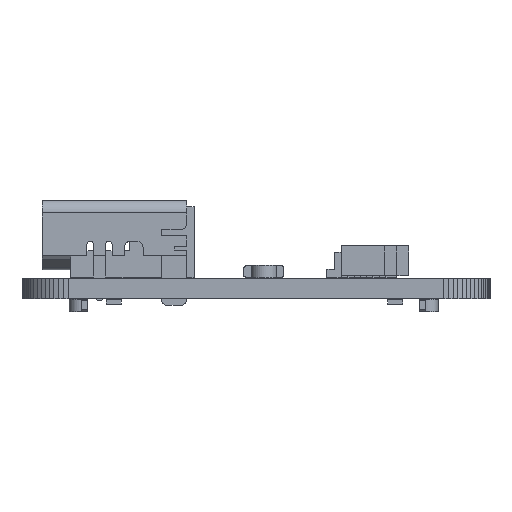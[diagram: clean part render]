
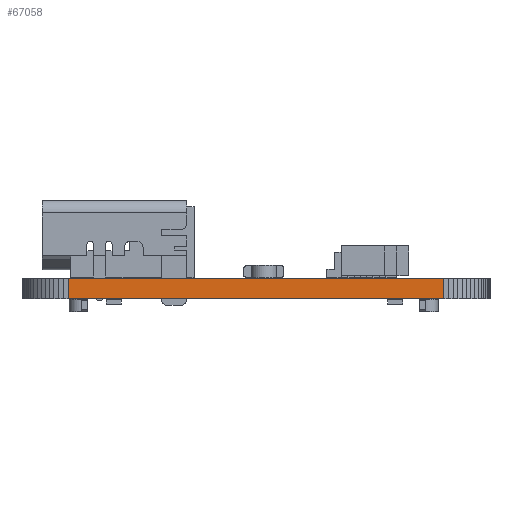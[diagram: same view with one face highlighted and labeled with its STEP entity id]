
A CAD part, left-side view. The second image highlights one B-rep face of the part: STEP entity #67058.
In plain terms, the highlighted planar face has unit normal (-1, 0, 0).
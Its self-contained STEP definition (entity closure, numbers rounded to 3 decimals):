
#53328 = PLANE('',#53329);
#53329 = AXIS2_PLACEMENT_3D('',#53330,#53331,#53332);
#53330 = CARTESIAN_POINT('',(113.8,-86.202,1.6));
#53331 = DIRECTION('',(-0.,-0.,-1.));
#53332 = DIRECTION('',(-1.,0.,0.));
#53382 = PLANE('',#53383);
#53383 = AXIS2_PLACEMENT_3D('',#53384,#53385,#53386);
#53384 = CARTESIAN_POINT('',(113.8,-86.202,0.));
#53385 = DIRECTION('',(-0.,-0.,-1.));
#53386 = DIRECTION('',(-1.,0.,0.));
#55535 = VERTEX_POINT('',#55536);
#55536 = CARTESIAN_POINT('',(95.099,-101.2,0.));
#55550 = PLANE('',#55551);
#55551 = AXIS2_PLACEMENT_3D('',#55552,#55553,#55554);
#55552 = CARTESIAN_POINT('',(95.12,-101.586,0.));
#55553 = DIRECTION('',(-0.999,-0.052,0.));
#55554 = DIRECTION('',(-0.052,0.999,0.));
#55562 = EDGE_CURVE('',#55535,#55563,#55565,.T.);
#55563 = VERTEX_POINT('',#55564);
#55564 = CARTESIAN_POINT('',(95.102,-71.2,0.));
#55565 = SURFACE_CURVE('',#55566,(#55570,#55577),.PCURVE_S1.);
#55566 = LINE('',#55567,#55568);
#55567 = CARTESIAN_POINT('',(95.099,-101.2,0.));
#55568 = VECTOR('',#55569,1.);
#55569 = DIRECTION('',(0.,1.,0.));
#55570 = PCURVE('',#53382,#55571);
#55571 = DEFINITIONAL_REPRESENTATION('',(#55572),#55576);
#55572 = LINE('',#55573,#55574);
#55573 = CARTESIAN_POINT('',(18.7,-14.998));
#55574 = VECTOR('',#55575,1.);
#55575 = DIRECTION('',(0.,1.));
#55576 = ( GEOMETRIC_REPRESENTATION_CONTEXT(2) 
PARAMETRIC_REPRESENTATION_CONTEXT() REPRESENTATION_CONTEXT('2D SPACE',''
  ) );
#55577 = PCURVE('',#55578,#55583);
#55578 = PLANE('',#55579);
#55579 = AXIS2_PLACEMENT_3D('',#55580,#55581,#55582);
#55580 = CARTESIAN_POINT('',(95.099,-101.2,0.));
#55581 = DIRECTION('',(-1.,0.,0.));
#55582 = DIRECTION('',(0.,1.,0.));
#55583 = DEFINITIONAL_REPRESENTATION('',(#55584),#55588);
#55584 = LINE('',#55585,#55586);
#55585 = CARTESIAN_POINT('',(0.,0.));
#55586 = VECTOR('',#55587,1.);
#55587 = DIRECTION('',(1.,0.));
#55588 = ( GEOMETRIC_REPRESENTATION_CONTEXT(2) 
PARAMETRIC_REPRESENTATION_CONTEXT() REPRESENTATION_CONTEXT('2D SPACE',''
  ) );
#55606 = PLANE('',#55607);
#55607 = AXIS2_PLACEMENT_3D('',#55608,#55609,#55610);
#55608 = CARTESIAN_POINT('',(95.102,-71.2,0.));
#55609 = DIRECTION('',(-0.999,0.052,0.));
#55610 = DIRECTION('',(0.052,0.999,0.));
#61291 = VERTEX_POINT('',#61292);
#61292 = CARTESIAN_POINT('',(95.099,-101.2,1.6));
#61313 = EDGE_CURVE('',#61291,#61314,#61316,.T.);
#61314 = VERTEX_POINT('',#61315);
#61315 = CARTESIAN_POINT('',(95.102,-71.2,1.6));
#61316 = SURFACE_CURVE('',#61317,(#61321,#61328),.PCURVE_S1.);
#61317 = LINE('',#61318,#61319);
#61318 = CARTESIAN_POINT('',(95.099,-101.2,1.6));
#61319 = VECTOR('',#61320,1.);
#61320 = DIRECTION('',(0.,1.,0.));
#61321 = PCURVE('',#53328,#61322);
#61322 = DEFINITIONAL_REPRESENTATION('',(#61323),#61327);
#61323 = LINE('',#61324,#61325);
#61324 = CARTESIAN_POINT('',(18.7,-14.998));
#61325 = VECTOR('',#61326,1.);
#61326 = DIRECTION('',(0.,1.));
#61327 = ( GEOMETRIC_REPRESENTATION_CONTEXT(2) 
PARAMETRIC_REPRESENTATION_CONTEXT() REPRESENTATION_CONTEXT('2D SPACE',''
  ) );
#61328 = PCURVE('',#55578,#61329);
#61329 = DEFINITIONAL_REPRESENTATION('',(#61330),#61334);
#61330 = LINE('',#61331,#61332);
#61331 = CARTESIAN_POINT('',(0.,-1.6));
#61332 = VECTOR('',#61333,1.);
#61333 = DIRECTION('',(1.,0.));
#61334 = ( GEOMETRIC_REPRESENTATION_CONTEXT(2) 
PARAMETRIC_REPRESENTATION_CONTEXT() REPRESENTATION_CONTEXT('2D SPACE',''
  ) );
#67008 = EDGE_CURVE('',#55563,#61314,#67009,.T.);
#67009 = SURFACE_CURVE('',#67010,(#67014,#67021),.PCURVE_S1.);
#67010 = LINE('',#67011,#67012);
#67011 = CARTESIAN_POINT('',(95.102,-71.2,0.));
#67012 = VECTOR('',#67013,1.);
#67013 = DIRECTION('',(0.,0.,1.));
#67014 = PCURVE('',#55606,#67015);
#67015 = DEFINITIONAL_REPRESENTATION('',(#67016),#67020);
#67016 = LINE('',#67017,#67018);
#67017 = CARTESIAN_POINT('',(0.,0.));
#67018 = VECTOR('',#67019,1.);
#67019 = DIRECTION('',(0.,-1.));
#67020 = ( GEOMETRIC_REPRESENTATION_CONTEXT(2) 
PARAMETRIC_REPRESENTATION_CONTEXT() REPRESENTATION_CONTEXT('2D SPACE',''
  ) );
#67021 = PCURVE('',#55578,#67022);
#67022 = DEFINITIONAL_REPRESENTATION('',(#67023),#67027);
#67023 = LINE('',#67024,#67025);
#67024 = CARTESIAN_POINT('',(30.,0.));
#67025 = VECTOR('',#67026,1.);
#67026 = DIRECTION('',(0.,-1.));
#67027 = ( GEOMETRIC_REPRESENTATION_CONTEXT(2) 
PARAMETRIC_REPRESENTATION_CONTEXT() REPRESENTATION_CONTEXT('2D SPACE',''
  ) );
#67058 = ADVANCED_FACE('',(#67059),#55578,.T.);
#67059 = FACE_BOUND('',#67060,.T.);
#67060 = EDGE_LOOP('',(#67061,#67082,#67083,#67084));
#67061 = ORIENTED_EDGE('',*,*,#67062,.T.);
#67062 = EDGE_CURVE('',#55535,#61291,#67063,.T.);
#67063 = SURFACE_CURVE('',#67064,(#67068,#67075),.PCURVE_S1.);
#67064 = LINE('',#67065,#67066);
#67065 = CARTESIAN_POINT('',(95.099,-101.2,0.));
#67066 = VECTOR('',#67067,1.);
#67067 = DIRECTION('',(0.,0.,1.));
#67068 = PCURVE('',#55578,#67069);
#67069 = DEFINITIONAL_REPRESENTATION('',(#67070),#67074);
#67070 = LINE('',#67071,#67072);
#67071 = CARTESIAN_POINT('',(0.,0.));
#67072 = VECTOR('',#67073,1.);
#67073 = DIRECTION('',(0.,-1.));
#67074 = ( GEOMETRIC_REPRESENTATION_CONTEXT(2) 
PARAMETRIC_REPRESENTATION_CONTEXT() REPRESENTATION_CONTEXT('2D SPACE',''
  ) );
#67075 = PCURVE('',#55550,#67076);
#67076 = DEFINITIONAL_REPRESENTATION('',(#67077),#67081);
#67077 = LINE('',#67078,#67079);
#67078 = CARTESIAN_POINT('',(0.387,0.));
#67079 = VECTOR('',#67080,1.);
#67080 = DIRECTION('',(0.,-1.));
#67081 = ( GEOMETRIC_REPRESENTATION_CONTEXT(2) 
PARAMETRIC_REPRESENTATION_CONTEXT() REPRESENTATION_CONTEXT('2D SPACE',''
  ) );
#67082 = ORIENTED_EDGE('',*,*,#61313,.T.);
#67083 = ORIENTED_EDGE('',*,*,#67008,.F.);
#67084 = ORIENTED_EDGE('',*,*,#55562,.F.);
